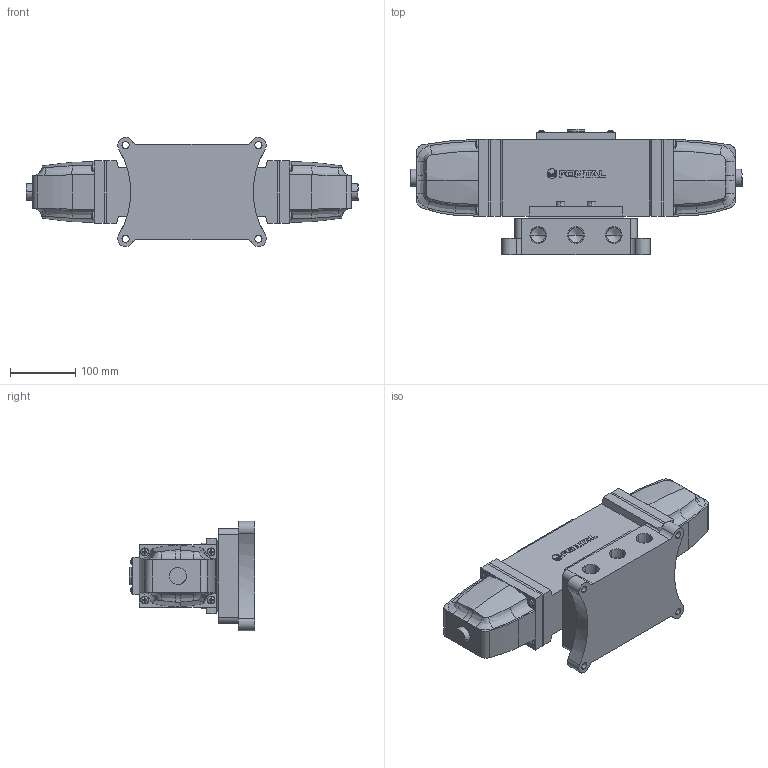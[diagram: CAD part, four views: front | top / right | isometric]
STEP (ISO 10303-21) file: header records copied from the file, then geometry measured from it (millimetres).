
FILE_DESCRIPTION (( 'STEP AP203' ), '1' );
FILE_NAME ('AD(DE)3425-08-##.STEP', '2016-03-09T03:02:50', ( 'Sam Lin' ), ( '' ), 'SwSTEP 2.0', 'SolidWorks 2013', '' );
FILE_SCHEMA (( 'CONFIG_CONTROL_DESIGN' ));
Length unit declared in the file: metre
Products named in the file (12): AS2325-3=34; ISO 7045 - M6 x 20; A25-MARK-2415; AS2425-4=34; AS2310-4; AS2425-6=08; AS2425-5; AD(DE)3425-08-##; ISO 4762 M8 x 30; AS2425-1=3425; ISO 7045 - M5 x 16; AS2325-2=34
Assembly tree (26 placements, depth 2):
  AD(DE)3425-08-##
    A25-MARK-2415
    AS2310-4
    AS2425-5
    ISO 4762 M8 x 30  x4
    AS2425-1=3425
    ISO 7045 - M5 x 16  x4
    AS2325-2=34  x2
    AS2325-3=34  x2
    ISO 7045 - M6 x 20  x8
    AS2425-4=34
    AS2425-6=08
Bounding box: 509.8 x 192.5 x 167.99 mm (x, y, z)
Volume: 6107736.7 mm3; surface area: 487633.7 mm2
Topology: 32 solids, 32 shells, 853 faces, 2138 edges, 1341 vertices
Faces by surface type: plane 438, cylinder 173, bspline 118, cone 108, torus 16
Entity records: 15657 total; most frequent: CARTESIAN_POINT 5057, ORIENTED_EDGE 1874, DIRECTION 1805, EDGE_CURVE 937, AXIS2_PLACEMENT_3D 646, VERTEX_POINT 610, LINE 513, VECTOR 513
